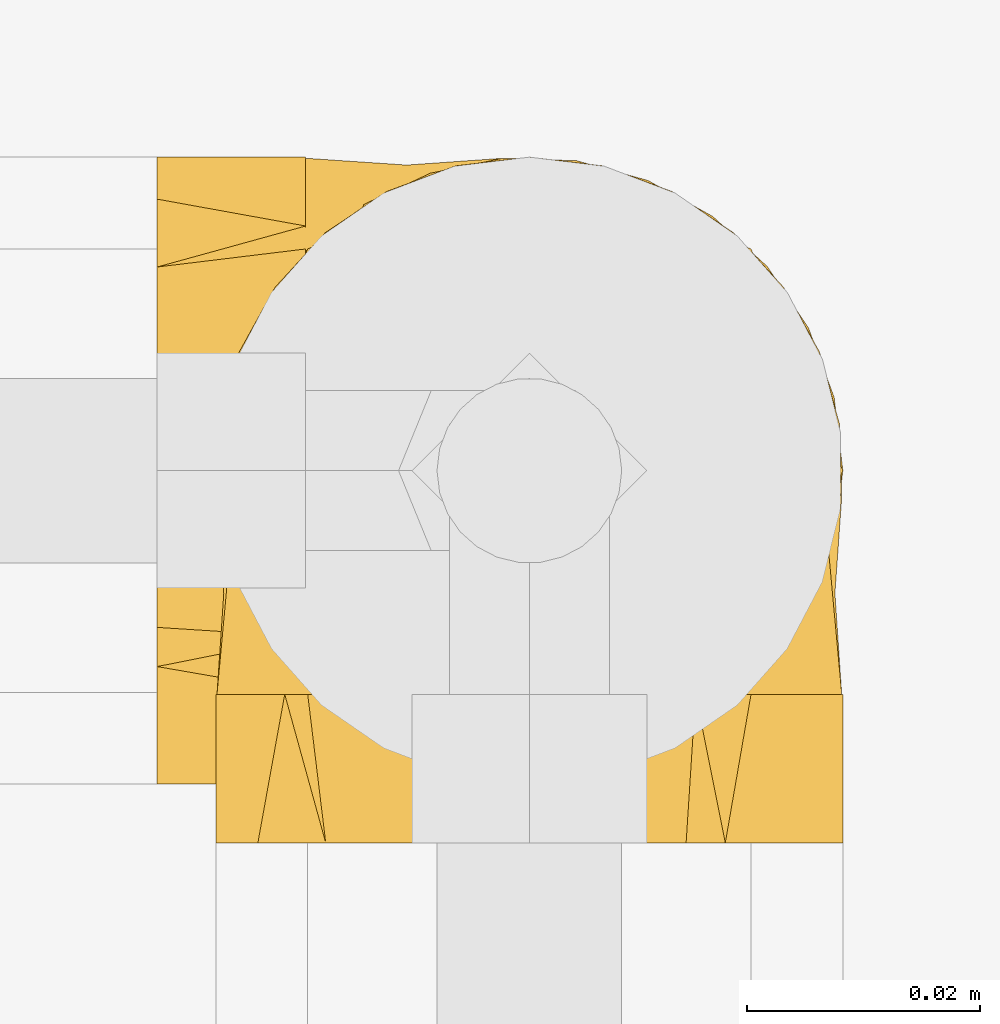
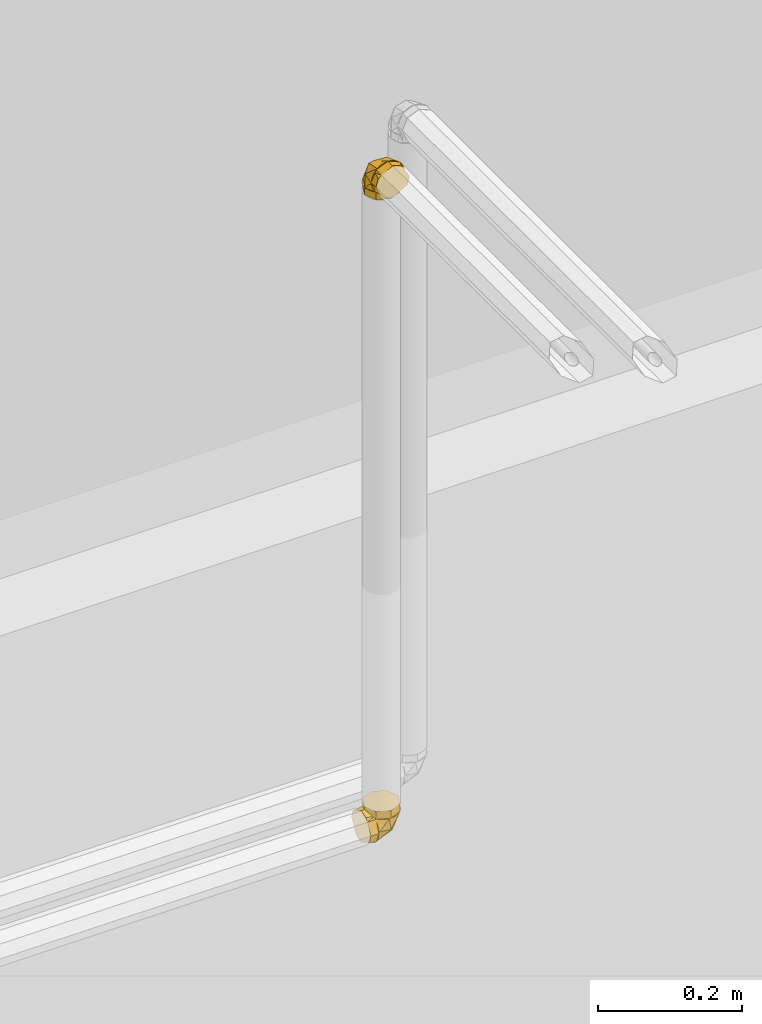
# One storey, part 305 of 652: 2 coverings.
"""IFC2X3 building model written with IfcOpenShell, lengths in millimetres."""

from ifc_helpers import new_model, entity, si_unit, converted_unit, direction, frame, origin, place, context, subcontext, project, spatial, face_set, surface_model, material, type_object, element, save


model = new_model("IFC2X3")

# Units and contexts
model_context = context("Model", 3, precision=0.01, world=frame((0.0, 0.0, 308426.39999999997)), true_north=direction((6.123233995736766e-17, 1.0)))
plan_context = context("Plan", 3, precision=0.01, world=frame((0.0, 0.0, 308426.39999999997)), true_north=direction((6.123233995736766e-17, 1.0)))
body_context = subcontext(model_context, "Body", "Model", "MODEL_VIEW")
ifc_project = project(units=[si_unit("LENGTHUNIT", "METRE", prefix="MILLI"), si_unit("AREAUNIT", "SQUARE_METRE"), si_unit("VOLUMEUNIT", "CUBIC_METRE"), converted_unit("PLANEANGLEUNIT", "DEGREE", entity("IfcPlaneAngleMeasure", 0.017453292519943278), si_unit("PLANEANGLEUNIT", "RADIAN"), dimensions=[0, 0, 0, 0, 0, 0, 0])], contexts=[model_context, plan_context])

# Site, building, storey
site_placement = place(None, origin())
site = spatial("IfcSite", under=ifc_project, at=site_placement, Name="Default", CompositionType="ELEMENT")
building_placement = place(site_placement, origin())
building = spatial("IfcBuilding", under=site, at=building_placement, CompositionType="ELEMENT")
storey_placement = place(building_placement, frame((0.0, 0.0, 1730.6999999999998)))
storey = spatial("IfcBuildingStorey", under=building, at=storey_placement, Name="EG_Produktion_FFB", CompositionType="ELEMENT", Elevation=1730.6999999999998)

# Coverings
ifc_material = material(Name="Dämmung - Armaflex-Schlauch")
covering_type = type_object("IfcCoveringType", Name="Rohrdämmung außen:Armaflex-Schlauch", PredefinedType="INSULATION")
covering_1_placement = place(storey_placement, frame((24382.624732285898, 50293.50378550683, 2671.4672277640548)))
element("IfcCovering", 1, at=covering_1_placement, inside=storey, type_object=covering_type, material=ifc_material, Name="Rohrdämmung außen:Armaflex-Schlauch", ObjectType="Rohrdämmung außen:Armaflex-Schlauch", PredefinedType="INSULATION", context=body_context, shape_type="SurfaceModel", body=[
    surface_model("IfcFaceBasedSurfaceModel", [(12.766250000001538, 9.65642195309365, 47.750272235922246), (17.72428799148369, 5.678961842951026, 47.750272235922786), (23.476279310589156, 2.973980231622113, 47.750272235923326), (29.701958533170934, 1.6920879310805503, 47.75027223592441), (36.05468574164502, 1.904659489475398, 47.75027223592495), (42.18074710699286, 3.599859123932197, 47.75027223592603), (47.73904933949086, 6.683299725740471, 47.75027223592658), (52.42011143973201, 10.983298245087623, 47.75027223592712), (55.9632963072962, 16.26043484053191, 47.75027223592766), (58.17132276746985, 22.220883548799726, 47.75027223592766), (58.92125000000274, 28.532772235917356, 47.75027223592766), (58.17132276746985, 34.844660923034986, 47.75027223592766), (55.9632963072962, 40.8051096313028, 47.75027223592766), (52.42011143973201, 46.08224622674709, 47.75027223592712), (47.73904933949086, 50.38224474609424, 47.75027223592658), (42.18074710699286, 53.465685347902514, 47.75027223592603), (36.05468574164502, 55.16088498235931, 47.75027223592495), (29.701958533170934, 55.37345654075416, 47.75027223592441), (23.476279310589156, 54.0915642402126, 47.750272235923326), (17.72428799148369, 51.38658262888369, 47.750272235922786), (12.766250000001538, 47.409122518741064, 47.750272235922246), (12.766250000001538, 51.38658262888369, 42.79223424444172), (12.766250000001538, 54.0915642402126, 37.04024292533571), (12.766250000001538, 55.37345654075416, 30.81456370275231), (12.766250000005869, 55.16088498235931, 24.46183649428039), (12.766250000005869, 53.465685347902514, 18.33577512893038), (12.766250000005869, 50.38224474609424, 12.777472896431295), (12.766250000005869, 46.08224622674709, 8.096410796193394), (12.766250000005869, 40.8051096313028, 4.553225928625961), (12.766250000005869, 34.844660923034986, 2.3451994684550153), (12.766250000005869, 28.532772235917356, 1.5952722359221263), (12.766250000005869, 22.220883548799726, 2.3451994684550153), (12.766250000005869, 16.26043484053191, 4.553225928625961), (12.766250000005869, 10.983298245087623, 8.096410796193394), (12.766250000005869, 6.683299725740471, 12.777472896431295), (12.766250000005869, 3.599859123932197, 18.33577512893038), (12.766250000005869, 1.904659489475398, 24.46183649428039), (12.766250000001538, 1.6920879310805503, 30.81456370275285), (12.766250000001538, 2.973980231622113, 37.04024292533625), (12.766250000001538, 5.678961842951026, 42.79223424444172), (21.44613563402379, 2.2773790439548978, 37.807400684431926), (52.73724891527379, 28.531590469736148, 24.672737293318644), (33.566326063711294, 3.5982286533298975, 26.951086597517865), (41.061217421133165, 6.337596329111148, 47.75039842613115), (31.029271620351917, 28.531590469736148, 12.139781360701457), (41.84256507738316, 14.285948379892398, 17.332487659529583), (12.765270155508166, 6.337596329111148, 19.455613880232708), (41.84256507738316, 42.78188343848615, 17.332487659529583), (33.566326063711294, 53.4649522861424, 26.951086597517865), (21.44613563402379, 54.79045277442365, 37.807400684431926), (12.765270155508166, 50.725584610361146, 19.455613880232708), (41.061217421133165, 50.725584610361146, 47.75039842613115), (58.92125000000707, 28.532772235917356, 60.5165222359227), (56.948797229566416, 33.29469446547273, 60.51652223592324), (54.976344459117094, 38.056616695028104, 60.51652223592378), (53.003891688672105, 42.818538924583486, 60.51652223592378), (51.03143891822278, 47.5804611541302, 60.51652223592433), (46.26951668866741, 49.55291392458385, 60.51652223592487), (41.50759445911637, 51.525366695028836, 60.51652223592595), (36.74567222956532, 53.497819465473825, 60.51652223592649), (31.983750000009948, 55.47027223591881, 60.516522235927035), (27.2218277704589, 53.497819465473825, 60.516522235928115), (22.459905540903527, 51.525366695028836, 60.516522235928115), (17.697983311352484, 49.552913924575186, 60.516522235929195), (12.936061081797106, 47.5804611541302, 60.51652223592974), (10.963608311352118, 42.818538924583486, 60.51652223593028), (8.991155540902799, 38.056616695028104, 60.51652223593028), (7.018702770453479, 33.29469446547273, 60.51652223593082), (5.046250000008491, 28.532772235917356, 60.51652223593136), (7.01870277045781, 23.77085000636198, 60.51652223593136), (8.991155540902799, 19.008927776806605, 60.51652223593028), (10.963608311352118, 14.247005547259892, 60.51652223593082), (12.936061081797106, 9.485083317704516, 60.51652223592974), (17.697983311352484, 7.512630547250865, 60.516522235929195), (22.459905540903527, 5.540177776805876, 60.516522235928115), (27.22182777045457, 3.567725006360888, 60.516522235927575), (31.983750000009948, 1.5952722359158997, 60.516522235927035), (36.74567222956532, 3.567725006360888, 60.51652223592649), (41.50759445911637, 5.540177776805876, 60.51652223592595), (46.26951668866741, 7.512630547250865, 60.51652223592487), (51.03143891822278, 9.485083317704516, 60.51652223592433), (53.00389168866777, 14.247005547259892, 60.51652223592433), (54.976344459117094, 19.008927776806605, 60.51652223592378), (56.948797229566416, 23.77085000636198, 60.5165222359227), (58.92125000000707, 28.532772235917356, 47.75027223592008), (56.948797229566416, 23.77085000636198, 47.750272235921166), (54.976344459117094, 19.008927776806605, 47.750272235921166), (53.00389168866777, 14.247005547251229, 47.750272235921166), (51.03143891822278, 9.485083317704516, 47.750272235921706), (45.26304951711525, 7.095738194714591, 47.750272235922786), (39.49466011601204, 4.706393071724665, 47.750272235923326), (31.983750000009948, 1.5952722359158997, 47.75027223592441), (27.22182777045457, 3.567725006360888, 47.75027223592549), (22.459905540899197, 5.540177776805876, 47.75027223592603), (17.69798331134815, 7.512630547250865, 47.75027223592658), (12.936061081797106, 9.485083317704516, 47.75027223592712), (10.546715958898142, 15.253472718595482, 47.75027223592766), (8.157370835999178, 21.021862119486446, 47.7502722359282), (5.046250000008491, 28.532772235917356, 47.75027223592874), (7.018702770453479, 33.29469446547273, 47.75027223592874), (8.991155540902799, 38.056616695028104, 47.7502722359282), (10.963608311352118, 42.818538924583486, 47.75027223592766), (12.936061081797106, 47.5804611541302, 47.75027223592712), (18.704450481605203, 49.96980627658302, 47.75027223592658), (24.472839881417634, 52.359151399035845, 47.75027223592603), (31.983750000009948, 55.47027223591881, 47.75027223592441), (36.74567222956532, 53.497819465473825, 47.75027223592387), (41.50759445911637, 51.525366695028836, 47.750272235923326), (46.26951668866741, 49.552913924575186, 47.750272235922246), (51.03143891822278, 47.5804611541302, 47.750272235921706), (53.4207840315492, 41.81207177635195, 47.750272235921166), (55.810129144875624, 36.0436823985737, 47.750272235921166), (0.0, 28.532772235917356, 1.5952722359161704), (0.0, 22.700632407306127, 4.962459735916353), (0.0, 16.868492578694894, 8.329647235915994), (0.0, 11.036352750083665, 11.696834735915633), (0.0, 5.204212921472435, 15.064022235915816), (0.0, 3.3997425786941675, 21.798397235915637), (0.0, 1.5952722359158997, 28.532772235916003), (0.0, 4.962459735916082, 34.36491206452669), (0.0, 8.329647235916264, 40.19705189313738), (0.0, 11.696834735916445, 46.02919172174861), (0.0, 15.064022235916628, 51.861331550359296), (0.0, 21.79839723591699, 53.66580189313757), (0.0, 28.532772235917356, 55.470272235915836), (0.0, 34.36491206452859, 52.10308473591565), (0.0, 40.197051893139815, 48.73589723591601), (0.0, 46.02919172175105, 45.36870973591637), (0.0, 51.86133155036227, 42.00152223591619), (0.0, 53.66580189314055, 35.26714723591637), (0.0, 55.47027223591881, 28.532772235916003), (0.0, 52.10308473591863, 22.700632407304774), (0.0, 48.73589723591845, 16.868492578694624), (0.0, 45.368709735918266, 11.036352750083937), (0.0, 42.00152223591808, 5.204212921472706), (0.0, 35.26714723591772, 3.3997425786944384), (12.766250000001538, 28.532772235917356, 1.5952722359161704), (12.766250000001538, 33.29469446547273, 3.567725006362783), (12.766250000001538, 38.056616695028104, 5.540177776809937), (12.766250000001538, 42.81853892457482, 7.512630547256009), (12.766250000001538, 47.5804611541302, 9.485083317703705), (12.766250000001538, 49.55291392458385, 14.247005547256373), (12.766250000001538, 51.525366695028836, 19.008927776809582), (12.766250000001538, 53.497819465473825, 23.770850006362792), (12.766250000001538, 55.47027223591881, 28.532772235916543), (12.766250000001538, 53.497819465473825, 33.29469446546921), (12.766250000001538, 51.525366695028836, 38.05661669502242), (12.766250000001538, 49.55291392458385, 42.818538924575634), (12.766250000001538, 47.5804611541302, 47.58046115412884), (12.766250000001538, 42.81853892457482, 49.552913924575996), (12.766250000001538, 38.056616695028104, 51.525366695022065), (12.766250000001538, 33.29469446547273, 53.49781946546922), (12.766250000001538, 28.532772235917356, 55.470272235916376), (12.766250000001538, 23.77085000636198, 53.49781946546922), (12.766250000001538, 19.008927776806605, 51.525366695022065), (12.766250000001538, 14.247005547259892, 49.552913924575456), (12.766250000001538, 9.485083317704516, 47.58046115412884), (12.766250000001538, 7.512630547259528, 42.818538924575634), (12.766250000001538, 5.540177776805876, 38.05661669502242), (12.766250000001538, 3.567725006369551, 33.29469446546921), (12.766250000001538, 1.5952722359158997, 28.532772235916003), (12.766250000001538, 3.567725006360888, 23.770850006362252), (12.766250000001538, 5.540177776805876, 19.008927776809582), (12.766250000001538, 7.512630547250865, 14.247005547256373), (12.766250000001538, 9.485083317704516, 9.485083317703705), (12.766250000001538, 14.247005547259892, 7.51263054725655), (12.766250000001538, 19.008927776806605, 5.540177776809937), (12.766250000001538, 23.77085000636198, 3.567725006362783)], [face_set([[[0, 1, 2, 3, 4, 5, 6, 7, 8, 9, 10, 11, 12, 13, 14, 15, 16, 17, 18, 19]], [[20, 21, 22, 23, 24, 25, 26, 27, 28, 29, 30, 31, 32, 33, 34, 35, 36, 37, 38, 39]], [[0, 40, 3]], [[10, 7, 41]], [[37, 42, 40]], [[42, 7, 43, 3]], [[37, 40, 0]], [[3, 40, 42]], [[44, 41, 45]], [[7, 45, 41]], [[33, 30, 44]], [[44, 45, 33]], [[42, 33, 45]], [[42, 37, 46]], [[7, 42, 45]], [[46, 33, 42]], [[13, 10, 41]], [[27, 47, 44]], [[44, 30, 27]], [[48, 47, 27]], [[49, 48, 23]], [[48, 50, 23]], [[44, 47, 41]], [[20, 49, 23]], [[47, 48, 13]], [[17, 49, 20]], [[41, 47, 13]], [[48, 17, 51]], [[48, 27, 50]], [[17, 48, 49]], [[51, 13, 48]]]), face_set([[[52, 53, 54, 55, 56, 57, 58, 59, 60, 61, 62, 63, 64, 65, 66, 67, 68, 69, 70, 71, 72, 73, 74, 75, 76, 77, 78, 79, 80, 81, 82, 83]], [[84, 85, 86, 87, 88, 89, 90, 91, 92, 93, 94, 95, 96, 97, 98, 99, 100, 101, 102, 103, 104, 105, 106, 107, 108, 109, 110, 111]], [[111, 110, 109, 56, 55, 54, 53, 52, 84]], [[56, 109, 108, 107, 106, 105, 60, 59, 58, 57]], [[104, 103, 102, 64, 63, 62, 61, 60, 105]], [[64, 102, 101, 100, 99, 98, 68, 67, 66, 65]], [[97, 96, 95, 72, 71, 70, 69, 68, 98]], [[72, 95, 94, 93, 92, 91, 76, 75, 74, 73]], [[90, 89, 88, 80, 79, 78, 77, 76, 91]], [[80, 88, 87, 86, 85, 84, 52, 83, 82, 81]]]), face_set([[[112, 113, 114, 115, 116, 117, 118, 119, 120, 121, 122, 123, 124, 125, 126, 127, 128, 129, 130, 131, 132, 133, 134, 135]], [[136, 137, 138, 139, 140, 141, 142, 143, 144, 145, 146, 147, 148, 149, 150, 151, 152, 153, 154, 155, 156, 157, 158, 159, 160, 161, 162, 163, 164, 165, 166, 167]], [[155, 121, 156]], [[118, 159, 119]], [[159, 158, 119]], [[123, 154, 153]], [[153, 152, 124]], [[121, 155, 122]], [[120, 158, 157]], [[118, 160, 159]], [[158, 120, 119]], [[124, 123, 153]], [[157, 156, 121]], [[155, 154, 122]], [[123, 122, 154]], [[120, 157, 121]], [[163, 115, 164]], [[112, 167, 113]], [[167, 166, 113]], [[117, 162, 161]], [[161, 160, 118]], [[115, 163, 116]], [[114, 166, 165]], [[112, 136, 167]], [[166, 114, 113]], [[118, 117, 161]], [[165, 164, 115]], [[163, 162, 116]], [[117, 116, 162]], [[114, 165, 115]], [[139, 133, 140]], [[130, 143, 131]], [[143, 142, 131]], [[135, 138, 137]], [[137, 136, 112]], [[133, 139, 134]], [[132, 142, 141]], [[130, 144, 143]], [[142, 132, 131]], [[112, 135, 137]], [[141, 140, 133]], [[139, 138, 134]], [[135, 134, 138]], [[132, 141, 133]], [[147, 127, 148]], [[124, 151, 125]], [[151, 150, 125]], [[129, 146, 145]], [[145, 144, 130]], [[127, 147, 128]], [[126, 150, 149]], [[124, 152, 151]], [[150, 126, 125]], [[130, 129, 145]], [[149, 148, 127]], [[147, 146, 128]], [[129, 128, 146]], [[126, 149, 127]]])]),
])
covering_2_placement = place(storey_placement, frame((24386.07571004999, 50290.052807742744, 3828.5327722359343)))
element("IfcCovering", 2, at=covering_2_placement, inside=storey, type_object=covering_type, material=ifc_material, Name="Rohrdämmung außen:Armaflex-Schlauch", ObjectType="Rohrdämmung außen:Armaflex-Schlauch", PredefinedType="INSULATION", context=body_context, shape_type="SurfaceModel", body=[
    surface_model("IfcFaceBasedSurfaceModel", [(9.65642195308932, 12.766249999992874, -47.750272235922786), (5.678961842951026, 17.724287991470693, -47.75027223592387), (2.973980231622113, 23.47627931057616, -47.75027223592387), (1.6920879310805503, 29.70195853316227, -47.75027223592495), (1.9046594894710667, 36.054685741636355, -47.75027223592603), (3.5998591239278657, 42.1807471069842, -47.75027223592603), (6.683299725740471, 47.7390493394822, -47.75027223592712), (10.983298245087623, 52.420111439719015, -47.75027223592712), (16.26043484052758, 55.963296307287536, -47.7502722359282), (22.220883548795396, 58.17132276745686, -47.7502722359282), (28.532772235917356, 58.921249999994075, -47.7502722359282), (34.84466092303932, 58.17132276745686, -47.7502722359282), (40.80510963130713, 55.963296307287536, -47.7502722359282), (46.08224622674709, 52.420111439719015, -47.75027223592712), (50.38224474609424, 47.7390493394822, -47.75027223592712), (53.46568534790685, 42.1807471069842, -47.75027223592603), (55.16088498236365, 36.054685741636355, -47.75027223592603), (55.37345654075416, 29.70195853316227, -47.75027223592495), (54.0915642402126, 23.47627931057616, -47.75027223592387), (51.38658262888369, 17.724287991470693, -47.75027223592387), (47.40912251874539, 12.766249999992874, -47.750272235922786), (51.38658262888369, 12.766249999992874, -42.79223424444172), (54.0915642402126, 12.766249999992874, -37.04024292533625), (55.37345654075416, 12.766249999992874, -30.814563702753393), (55.16088498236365, 12.766249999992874, -24.46183649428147), (53.46568534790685, 12.766249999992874, -18.33577512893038), (50.38224474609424, 12.766249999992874, -12.777472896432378), (46.08224622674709, 12.766250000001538, -8.096410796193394), (40.80510963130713, 12.766250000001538, -4.553225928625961), (34.84466092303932, 12.766250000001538, -2.3451994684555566), (28.532772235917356, 12.766250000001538, -1.5952722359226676), (22.220883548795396, 12.766250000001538, -2.3451994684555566), (16.26043484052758, 12.766250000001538, -4.553225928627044), (10.983298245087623, 12.766250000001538, -8.096410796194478), (6.683299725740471, 12.766249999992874, -12.777472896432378), (3.5998591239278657, 12.766249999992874, -18.33577512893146), (1.9046594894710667, 12.766249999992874, -24.46183649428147), (1.6920879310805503, 12.766249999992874, -30.814563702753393), (2.973980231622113, 12.766249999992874, -37.04024292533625), (5.678961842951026, 12.766249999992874, -42.7922342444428), (2.2751871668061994, 21.448327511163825, -37.807584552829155), (28.531724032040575, 52.73944079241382, -24.672921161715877), (6.337729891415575, 41.061083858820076, -47.750000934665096), (3.60068765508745, 33.563867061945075, -26.951270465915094), (14.286081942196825, 41.842431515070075, -17.332671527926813), (28.531724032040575, 31.029138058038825, -12.139965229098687), (6.337729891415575, 12.765136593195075, -19.455216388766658), (42.77969156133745, 41.842431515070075, -17.332671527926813), (54.78826089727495, 21.448327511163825, -37.807584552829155), (53.465085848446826, 33.563867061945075, -26.951270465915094), (50.728043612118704, 12.765136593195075, -19.455216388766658), (50.728043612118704, 41.061083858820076, -47.750000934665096), (28.532772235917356, 58.921250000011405, -60.51652223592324), (33.29469446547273, 56.94879722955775, -60.51652223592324), (38.05661669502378, 54.97634445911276, -60.51652223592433), (42.81853892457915, 53.00389168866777, -60.51652223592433), (47.5804611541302, 51.03143891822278, -60.51652223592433), (49.552913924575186, 46.26951668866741, -60.51652223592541), (51.5253666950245, 41.507594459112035, -60.51652223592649), (53.497819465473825, 36.74567222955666, -60.51652223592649), (55.47027223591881, 31.983750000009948, -60.516522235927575), (53.497819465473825, 27.22182777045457, -60.516522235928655), (51.5253666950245, 22.459905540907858, -60.516522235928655), (49.552913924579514, 17.697983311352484, -60.51652223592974), (47.5804611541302, 12.936061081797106, -60.51652223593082), (42.81853892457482, 10.963608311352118, -60.51652223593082), (38.05661669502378, 8.99115554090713, -60.51652223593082), (33.29469446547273, 7.018702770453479, -60.51652223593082), (28.532772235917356, 5.046250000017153, -60.5165222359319), (23.770850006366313, 7.018702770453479, -60.5165222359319), (19.008927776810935, 8.99115554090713, -60.51652223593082), (14.247005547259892, 10.963608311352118, -60.51652223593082), (9.485083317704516, 12.936061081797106, -60.51652223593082), (7.512630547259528, 17.697983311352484, -60.51652223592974), (5.540177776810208, 22.459905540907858, -60.516522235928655), (3.567725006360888, 27.22182777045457, -60.516522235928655), (1.5952722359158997, 31.983750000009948, -60.516522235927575), (3.567725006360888, 36.74567222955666, -60.51652223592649), (5.540177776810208, 41.507594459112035, -60.51652223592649), (7.512630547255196, 46.26951668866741, -60.51652223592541), (9.485083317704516, 51.03143891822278, -60.51652223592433), (14.247005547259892, 53.00389168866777, -60.51652223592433), (19.008927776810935, 54.97634445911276, -60.51652223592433), (23.77085000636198, 56.948797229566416, -60.51652223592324), (28.532772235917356, 58.92125000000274, -47.75027223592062), (23.77085000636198, 56.94879722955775, -47.75027223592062), (19.008927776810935, 54.97634445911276, -47.75027223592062), (14.247005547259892, 53.00389168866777, -47.750272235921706), (9.485083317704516, 51.03143891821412, -47.750272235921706), (7.095738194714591, 45.26304951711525, -47.750272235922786), (4.706393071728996, 39.49466011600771, -47.75027223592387), (1.5952722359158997, 31.983750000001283, -47.75027223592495), (3.567725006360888, 27.22182777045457, -47.75027223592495), (5.540177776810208, 22.459905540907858, -47.75027223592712), (7.512630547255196, 17.69798331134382, -47.7502722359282), (9.485083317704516, 12.936061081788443, -47.7502722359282), (15.253472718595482, 10.546715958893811, -47.7502722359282), (21.021862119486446, 8.157370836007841, -47.75027223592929), (28.532772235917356, 5.046250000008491, -47.75027223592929), (33.29469446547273, 7.018702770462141, -47.75027223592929), (38.05661669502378, 8.99115554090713, -47.75027223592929), (42.81853892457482, 10.963608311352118, -47.7502722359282), (47.5804611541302, 12.936061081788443, -47.7502722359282), (49.96980627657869, 18.704450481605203, -47.75027223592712), (52.35915139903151, 24.472839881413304, -47.75027223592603), (55.47027223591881, 31.983750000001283, -47.75027223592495), (53.497819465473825, 36.74567222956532, -47.75027223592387), (51.5253666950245, 41.507594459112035, -47.750272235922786), (49.552913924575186, 46.26951668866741, -47.750272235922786), (47.5804611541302, 51.03143891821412, -47.750272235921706), (41.81207177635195, 53.420784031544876, -47.75027223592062), (36.0436823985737, 55.810129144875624, -47.750272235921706), (28.532772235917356, 0.0, -1.5952722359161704), (22.700632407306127, 0.0, -4.96245973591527), (16.868492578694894, 0.0, -8.329647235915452), (11.036352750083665, 0.0, -11.696834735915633), (5.204212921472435, 0.0, -15.064022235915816), (3.3997425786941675, 0.0, -21.79839723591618), (1.5952722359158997, 0.0, -28.532772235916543), (4.962459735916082, 0.0, -34.36491206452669), (8.329647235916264, 0.0, -40.197051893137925), (11.696834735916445, 0.0, -46.02919172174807), (15.064022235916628, 0.0, -51.861331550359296), (21.79839723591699, 0.0, -53.66580189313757), (28.532772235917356, 0.0, -55.470272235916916), (34.36491206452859, 0.0, -52.10308473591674), (40.197051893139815, 0.0, -48.73589723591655), (46.02919172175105, 0.0, -45.36870973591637), (51.86133155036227, 0.0, -42.00152223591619), (53.66580189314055, 0.0, -35.26714723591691), (55.47027223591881, 0.0, -28.532772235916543), (52.10308473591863, 0.0, -22.700632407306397), (48.73589723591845, 0.0, -16.868492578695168), (45.368709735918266, 0.0, -11.036352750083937), (42.00152223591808, 0.0, -5.204212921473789), (35.26714723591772, 0.0, -3.399742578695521), (28.532772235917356, 12.766250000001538, -1.5952722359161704), (33.2946944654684, 12.766250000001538, -3.567725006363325), (38.05661669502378, 12.766250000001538, -5.540177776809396), (42.81853892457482, 12.766250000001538, -7.51263054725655), (47.5804611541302, 12.766250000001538, -9.485083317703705), (49.552913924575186, 12.766250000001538, -14.247005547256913), (51.5253666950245, 12.766250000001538, -19.008927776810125), (53.497819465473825, 12.766250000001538, -23.770850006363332), (55.47027223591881, 12.766250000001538, -28.532772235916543), (53.49781946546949, 12.766250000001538, -33.29469446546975), (51.5253666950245, 12.766250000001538, -38.05661669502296), (49.552913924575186, 12.766250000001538, -42.818538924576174), (47.5804611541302, 12.766250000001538, -47.58046115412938), (42.81853892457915, 12.766250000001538, -49.552913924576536), (38.05661669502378, 12.766250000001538, -51.52536669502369), (33.29469446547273, 12.766250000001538, -53.49781946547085), (28.532772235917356, 12.766250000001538, -55.470272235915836), (23.77085000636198, 12.766250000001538, -53.49781946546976), (19.008927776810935, 12.766250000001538, -51.52536669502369), (14.247005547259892, 12.766250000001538, -49.552913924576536), (9.485083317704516, 12.766250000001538, -47.58046115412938), (7.512630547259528, 12.766250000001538, -42.818538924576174), (5.540177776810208, 12.766250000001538, -38.05661669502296), (3.5677250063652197, 12.766250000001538, -33.29469446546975), (1.5952722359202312, 12.766250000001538, -28.532772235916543), (3.567725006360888, 12.766250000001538, -23.770850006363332), (5.540177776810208, 12.766250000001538, -19.008927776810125), (7.512630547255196, 12.766250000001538, -14.247005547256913), (9.485083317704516, 12.766250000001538, -9.485083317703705), (14.24700554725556, 12.766250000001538, -7.51263054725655), (19.008927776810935, 12.766250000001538, -5.540177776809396), (23.77085000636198, 12.766250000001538, -3.567725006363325)], [face_set([[[0, 1, 2, 3, 4, 5, 6, 7, 8, 9, 10, 11, 12, 13, 14, 15, 16, 17, 18, 19]], [[20, 21, 22, 23, 24, 25, 26, 27, 28, 29, 30, 31, 32, 33, 34, 35, 36, 37, 38, 39]], [[0, 40, 3]], [[10, 7, 41]], [[42, 3, 43, 7]], [[40, 43, 3]], [[37, 40, 0]], [[7, 43, 44]], [[45, 41, 44]], [[7, 44, 41]], [[33, 30, 45]], [[45, 44, 33]], [[43, 33, 44]], [[43, 37, 46]], [[37, 43, 40]], [[46, 33, 43]], [[13, 10, 41]], [[27, 47, 45]], [[45, 30, 27]], [[48, 49, 23]], [[49, 27, 50]], [[17, 49, 48]], [[45, 47, 41]], [[20, 48, 23]], [[47, 49, 13]], [[17, 48, 20]], [[41, 47, 13]], [[49, 17, 51, 13]], [[27, 49, 47]], [[50, 23, 49]]]), face_set([[[52, 53, 54, 55, 56, 57, 58, 59, 60, 61, 62, 63, 64, 65, 66, 67, 68, 69, 70, 71, 72, 73, 74, 75, 76, 77, 78, 79, 80, 81, 82, 83]], [[84, 85, 86, 87, 88, 89, 90, 91, 92, 93, 94, 95, 96, 97, 98, 99, 100, 101, 102, 103, 104, 105, 106, 107, 108, 109, 110, 111]], [[111, 110, 109, 56, 55, 54, 53, 52, 84]], [[56, 109, 108, 107, 106, 105, 60, 59, 58, 57]], [[104, 103, 102, 64, 63, 62, 61, 60, 105]], [[64, 102, 101, 100, 99, 98, 68, 67, 66, 65]], [[97, 96, 95, 72, 71, 70, 69, 68, 98]], [[72, 95, 94, 93, 92, 91, 76, 75, 74, 73]], [[90, 89, 88, 80, 79, 78, 77, 76, 91]], [[80, 88, 87, 86, 85, 84, 52, 83, 82, 81]]]), face_set([[[112, 113, 114, 115, 116, 117, 118, 119, 120, 121, 122, 123, 124, 125, 126, 127, 128, 129, 130, 131, 132, 133, 134, 135]], [[136, 137, 138, 139, 140, 141, 142, 143, 144, 145, 146, 147, 148, 149, 150, 151, 152, 153, 154, 155, 156, 157, 158, 159, 160, 161, 162, 163, 164, 165, 166, 167]], [[155, 121, 156]], [[118, 159, 119]], [[159, 158, 119]], [[123, 154, 153]], [[153, 152, 124]], [[121, 155, 122]], [[120, 158, 157]], [[118, 160, 159]], [[158, 120, 119]], [[124, 123, 153]], [[157, 156, 121]], [[155, 154, 122]], [[123, 122, 154]], [[120, 157, 121]], [[163, 115, 164]], [[112, 167, 113]], [[167, 166, 113]], [[117, 162, 161]], [[161, 160, 118]], [[115, 163, 116]], [[114, 166, 165]], [[112, 136, 167]], [[166, 114, 113]], [[118, 117, 161]], [[165, 164, 115]], [[163, 162, 116]], [[117, 116, 162]], [[114, 165, 115]], [[139, 133, 140]], [[130, 143, 131]], [[143, 142, 131]], [[135, 138, 137]], [[137, 136, 112]], [[133, 139, 134]], [[132, 142, 141]], [[130, 144, 143]], [[142, 132, 131]], [[112, 135, 137]], [[141, 140, 133]], [[139, 138, 134]], [[135, 134, 138]], [[132, 141, 133]], [[147, 127, 148]], [[124, 151, 125]], [[151, 150, 125]], [[129, 146, 145]], [[145, 144, 130]], [[127, 147, 128]], [[126, 150, 149]], [[124, 152, 151]], [[150, 126, 125]], [[130, 129, 145]], [[149, 148, 127]], [[147, 146, 128]], [[129, 128, 146]], [[126, 149, 127]]])]),
])

save(model, "model.ifc")
